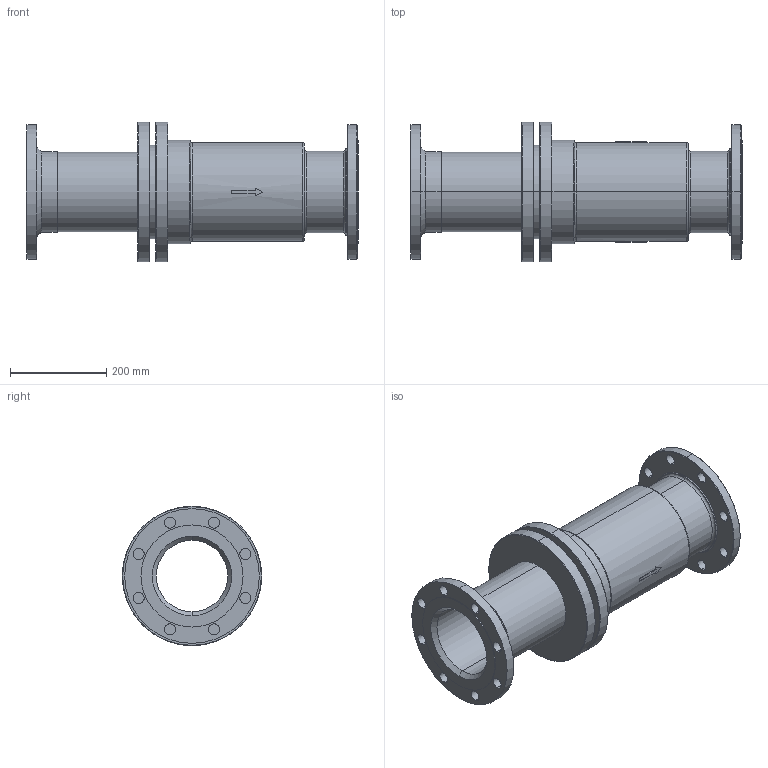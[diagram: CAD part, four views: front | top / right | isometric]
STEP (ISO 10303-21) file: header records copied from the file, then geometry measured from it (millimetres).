
FILE_DESCRIPTION( (''), '2;1');
FILE_NAME ('PC1027.9516.ES-10-200 150A_30931.stp','2025-07-30T14:59:37',(''),(''),'spGate 20.6.3 (****-****-****-****)','','');
FILE_SCHEMA (('AUTOMOTIVE_DESIGN'));
Length unit declared in the file: millimetre
Bounding box: 690 x 290 x 290 mm (x, y, z)
Volume: 10260196.4 mm3; surface area: 1080224.6 mm2
Topology: 1 solids, 1 shells, 121 faces, 288 edges, 182 vertices
Faces by surface type: cylinder 62, bspline 30, plane 29
Entity records: 6193 total; most frequent: CARTESIAN_POINT 1157, ORIENTED_EDGE 576, DIRECTION 534, COLOUR_RGB 410, PRESENTATION_STYLE_ASSIGNMENT 410, STYLED_ITEM 410, EDGE_CURVE 288, DRAUGHTING_PRE_DEFINED_CURVE_FONT 288
